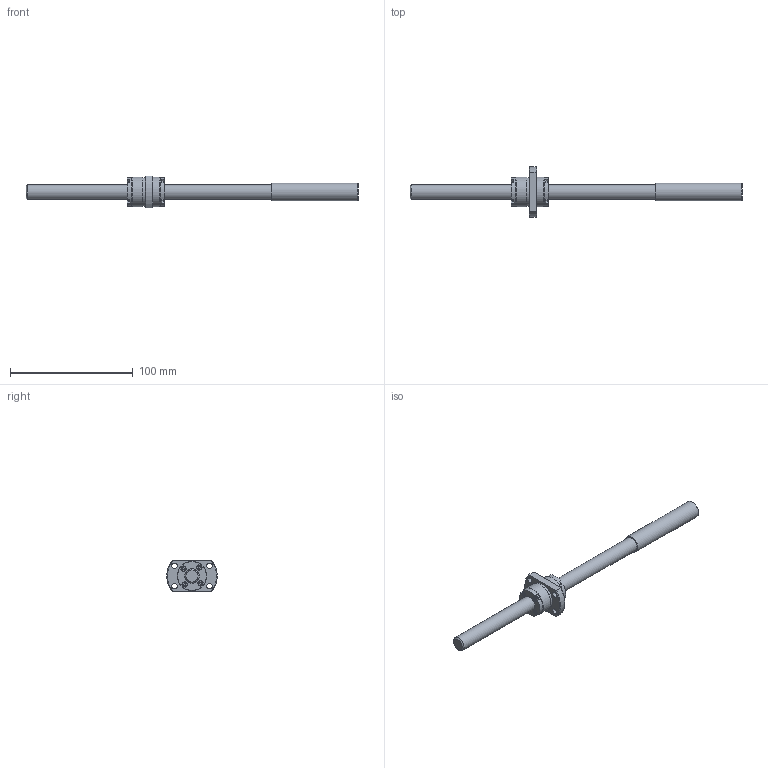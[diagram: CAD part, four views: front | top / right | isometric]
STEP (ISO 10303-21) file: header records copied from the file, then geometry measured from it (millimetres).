
FILE_DESCRIPTION(/* description */ ('STEP AP214'),/* implementation_level */ '2;1');
FILE_NAME(/* name */ 'SRT1210-196R270C7A0X(82.5None)',/* time_stamp */ '2026-08-06T15:13:10+02:00',/* author */ ('License CC BY-ND 4.0'),/* organization */ ('CADENAS'),/* preprocessor_version */ 'ST-DEVELOPER v20',/* originating_system */ 'PARTsolutions',/* authorisation */ ' ');
FILE_SCHEMA (('AUTOMOTIVE_DESIGN {1 0 10303 214 3 1 1}'));
Length unit declared in the file: millimetre
Products named in the file (3): SRT1210-196R270C7A0X(82.5None); SRT1210-196R270ACt7None81Shaft; SRT1210Nut
Assembly tree (2 placements, depth 2):
  SRT1210-196R270C7A0X(82.5None)
    SRT1210-196R270ACt7None81Shaft
    SRT1210Nut
Bounding box: 270 x 41 x 26 mm (x, y, z)
Volume: 46339.2 mm3; surface area: 16846.1 mm2
Topology: 2 solids, 2 shells, 138 faces, 334 edges, 222 vertices
Faces by surface type: plane 100, cylinder 30, cone 8
Full cylindrical faces by diameter (mm): 3.8 x8, 4.5 x4, 12 x2, 14.2 x1, 23.5 x3, 24 x2
Entity records: 3971 total; most frequent: CARTESIAN_POINT 689, DIRECTION 662, ORIENTED_EDGE 612, EDGE_CURVE 306, AXIS2_PLACEMENT_3D 223, VERTEX_POINT 218, LINE 216, VECTOR 216
